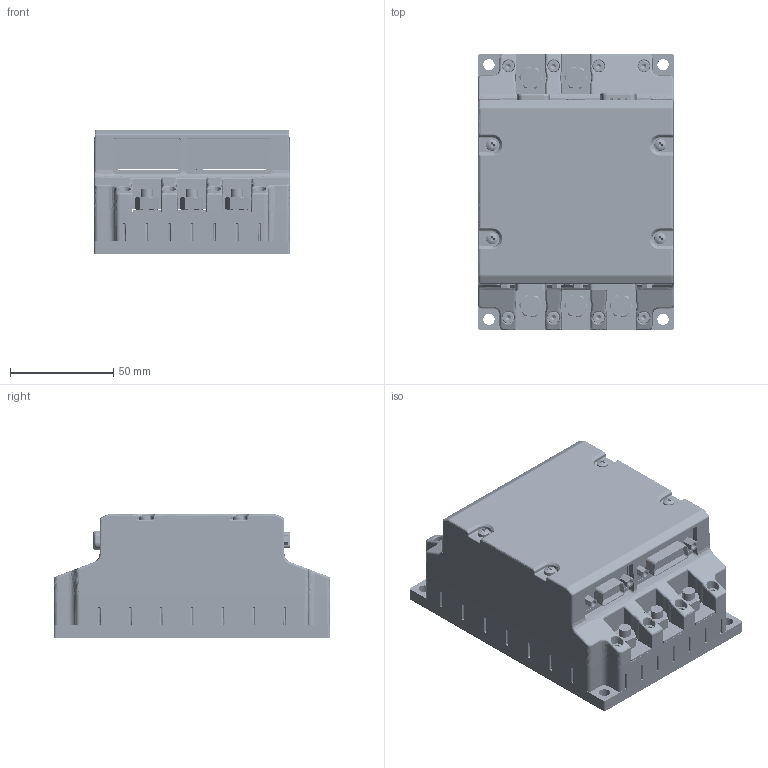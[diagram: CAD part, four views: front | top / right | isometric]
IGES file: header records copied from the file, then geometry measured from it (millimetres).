
Start section: SolidWorks IGES file using analytic representation for surfaces
Global section: file name: F:\ELMO\PRODUCTS\ExtrIQ\Eagle\DRAWING\solid-parts\EAGLE.IGS; native system: SolidWorks 2007; preprocessor: SolidWorks 2007; author: shlomo; date: 070225.130445; units: millimetre
Bounding box: 95.25 x 134.25 x 60 mm (x, y, z)
Surface area: 149252.6 mm2 (no closed solid volume)
Topology: 0 solids, 0 shells, 4786 faces, 35099 edges, 34984 vertices
Faces by surface type: bspline 2844, revolution 1942
